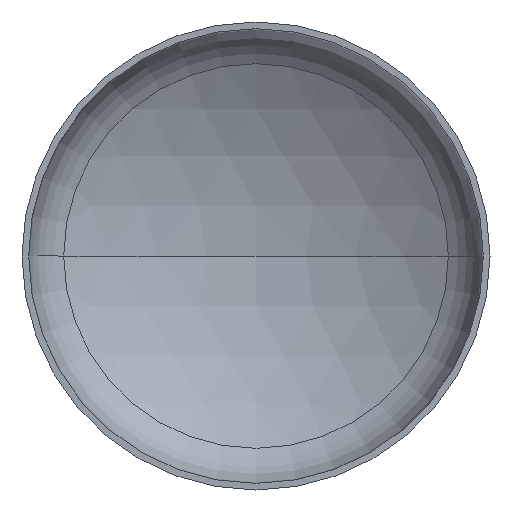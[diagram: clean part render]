
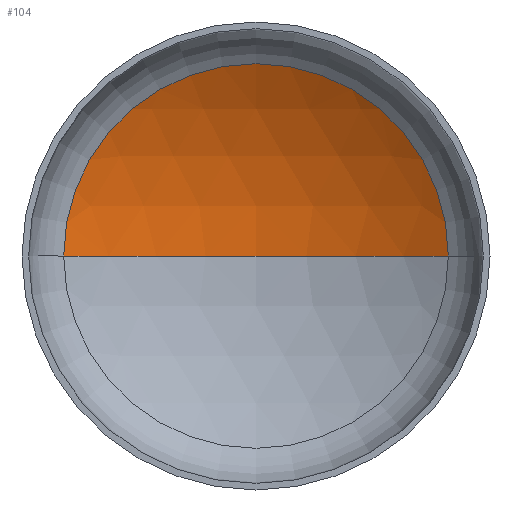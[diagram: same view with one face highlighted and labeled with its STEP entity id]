
A CAD part, front view. The second image highlights one B-rep face of the part: STEP entity #104.
In plain terms, the highlighted spherical face has radius 3040 mm.
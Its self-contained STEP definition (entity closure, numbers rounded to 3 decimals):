
#10 = CARTESIAN_POINT ( 'NONE',  ( 0., -1986.396, 0. ) ) ;
#29 = EDGE_LOOP ( 'NONE', ( #138, #125, #67 ) ) ;
#31 = AXIS2_PLACEMENT_3D ( 'NONE', #10, #201, #215 ) ;
#35 = AXIS2_PLACEMENT_3D ( 'NONE', #195, #360, #223 ) ;
#38 = AXIS2_PLACEMENT_3D ( 'NONE', #214, #218, #200 ) ;
#39 = AXIS2_PLACEMENT_3D ( 'NONE', #305, #229, #228 ) ;
#67 = ORIENTED_EDGE ( 'NONE', *, *, #78, .T. ) ;
#78 = EDGE_CURVE ( 'NONE', #159, #141, #211, .T. ) ;
#80 = EDGE_CURVE ( 'NONE', #160, #159, #109, .T. ) ;
#82 = EDGE_CURVE ( 'NONE', #160, #141, #327, .T. ) ;
#104 = ADVANCED_FACE ( 'NONE', ( #271 ), #203, .F. ) ;
#106 = CARTESIAN_POINT ( 'NONE',  ( -1561.483, 621.931, 0. ) ) ;
#109 = CIRCLE ( 'NONE', #38, 3040. ) ;
#125 = ORIENTED_EDGE ( 'NONE', *, *, #80, .T. ) ;
#138 = ORIENTED_EDGE ( 'NONE', *, *, #82, .F. ) ;
#141 = VERTEX_POINT ( 'NONE', #106 ) ;
#159 = VERTEX_POINT ( 'NONE', #265 ) ;
#160 = VERTEX_POINT ( 'NONE', #263 ) ;
#195 = CARTESIAN_POINT ( 'NONE',  ( 0., -1986.396, 0. ) ) ;
#200 = DIRECTION ( 'NONE',  ( -1., 0., 0. ) ) ;
#201 = DIRECTION ( 'NONE',  ( 0., 0., -1. ) ) ;
#203 = SPHERICAL_SURFACE ( 'NONE', #31, 3040. ) ;
#211 = CIRCLE ( 'NONE', #39, 1561.483 ) ;
#214 = CARTESIAN_POINT ( 'NONE',  ( 0., -1986.396, 0. ) ) ;
#215 = DIRECTION ( 'NONE',  ( -1., 0., 0. ) ) ;
#218 = DIRECTION ( 'NONE',  ( 0., 0., -1. ) ) ;
#223 = DIRECTION ( 'NONE',  ( 1., 0., 0. ) ) ;
#228 = DIRECTION ( 'NONE',  ( 1., 0., 0. ) ) ;
#229 = DIRECTION ( 'NONE',  ( 0., -1., 0. ) ) ;
#263 = CARTESIAN_POINT ( 'NONE',  ( 0., 1053.604, 0. ) ) ;
#265 = CARTESIAN_POINT ( 'NONE',  ( 1561.483, 621.931, 0. ) ) ;
#271 = FACE_OUTER_BOUND ( 'NONE', #29, .T. ) ;
#305 = CARTESIAN_POINT ( 'NONE',  ( 0., 621.931, 0. ) ) ;
#327 = CIRCLE ( 'NONE', #35, 3040. ) ;
#360 = DIRECTION ( 'NONE',  ( 0., 0., 1. ) ) ;
